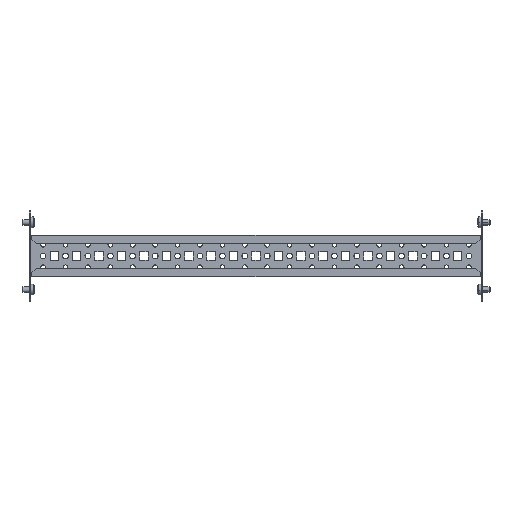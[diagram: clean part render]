
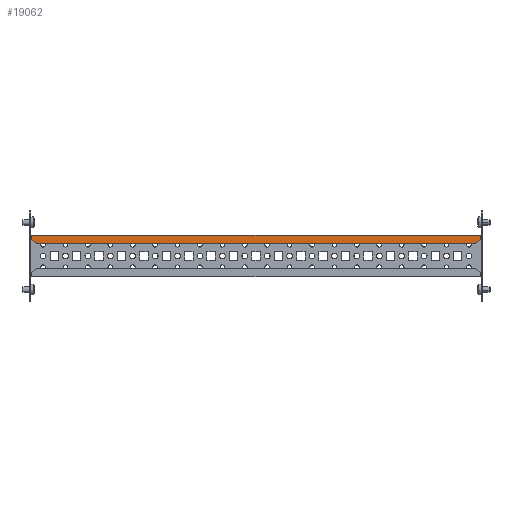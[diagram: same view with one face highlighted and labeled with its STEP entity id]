
A CAD part, front view. The second image highlights one B-rep face of the part: STEP entity #19062.
In plain terms, the highlighted planar face has unit normal (0, -1, 0).
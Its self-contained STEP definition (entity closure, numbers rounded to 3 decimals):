
#103 = VERTEX_POINT ( 'NONE', #16454 ) ;
#316 = VERTEX_POINT ( 'NONE', #8255 ) ;
#1080 = EDGE_LOOP ( 'NONE', ( #16733, #6594, #1815, #3065, #13098, #18577, #7416, #3872 ) ) ;
#1169 = CARTESIAN_POINT ( 'NONE',  ( 245., -94., 13.5 ) ) ;
#1287 = DIRECTION ( 'NONE',  ( 0.707, 0., -0.707 ) ) ;
#1815 = ORIENTED_EDGE ( 'NONE', *, *, #8837, .F. ) ;
#2374 = DIRECTION ( 'NONE',  ( -1., 0., 0. ) ) ;
#2702 = VERTEX_POINT ( 'NONE', #17596 ) ;
#3065 = ORIENTED_EDGE ( 'NONE', *, *, #14120, .T. ) ;
#3411 = CARTESIAN_POINT ( 'NONE',  ( -250., -94., 0. ) ) ;
#3506 = EDGE_CURVE ( 'NONE', #316, #15287, #14911, .T. ) ;
#3872 = ORIENTED_EDGE ( 'NONE', *, *, #12627, .F. ) ;
#4154 = DIRECTION ( 'NONE',  ( 0., 0., 1. ) ) ;
#4224 = VECTOR ( 'NONE', #2374, 1000. ) ;
#4449 = VECTOR ( 'NONE', #1287, 1000. ) ;
#4466 = VECTOR ( 'NONE', #17024, 1000. ) ;
#5253 = DIRECTION ( 'NONE',  ( -1., 0., 0. ) ) ;
#5730 = CARTESIAN_POINT ( 'NONE',  ( -250., -94., 23. ) ) ;
#6594 = ORIENTED_EDGE ( 'NONE', *, *, #20037, .T. ) ;
#6954 = CARTESIAN_POINT ( 'NONE',  ( 250., -94., 20. ) ) ;
#7416 = ORIENTED_EDGE ( 'NONE', *, *, #11611, .T. ) ;
#7644 = VERTEX_POINT ( 'NONE', #13340 ) ;
#8255 = CARTESIAN_POINT ( 'NONE',  ( -250., -94., 18.5 ) ) ;
#8428 = DIRECTION ( 'NONE',  ( 0., 0., -1. ) ) ;
#8837 = EDGE_CURVE ( 'NONE', #9676, #2702, #13199, .T. ) ;
#8933 = EDGE_CURVE ( 'NONE', #17730, #103, #13297, .T. ) ;
#9580 = CARTESIAN_POINT ( 'NONE',  ( -245., -94., 13.5 ) ) ;
#9614 = LINE ( 'NONE', #3411, #10272 ) ;
#9676 = VERTEX_POINT ( 'NONE', #1169 ) ;
#10272 = VECTOR ( 'NONE', #12906, 1000. ) ;
#10512 = CARTESIAN_POINT ( 'NONE',  ( 250., -94., 13.5 ) ) ;
#10803 = VECTOR ( 'NONE', #5253, 1000. ) ;
#11025 = CARTESIAN_POINT ( 'NONE',  ( 250., -94., 20. ) ) ;
#11580 = CARTESIAN_POINT ( 'NONE',  ( 0., -94., 23. ) ) ;
#11611 = EDGE_CURVE ( 'NONE', #7644, #12211, #13427, .T. ) ;
#12211 = VERTEX_POINT ( 'NONE', #5730 ) ;
#12301 = CARTESIAN_POINT ( 'NONE',  ( 250., -94., 18.5 ) ) ;
#12627 = EDGE_CURVE ( 'NONE', #15287, #12211, #9614, .T. ) ;
#12906 = DIRECTION ( 'NONE',  ( 0., 0., 1. ) ) ;
#13098 = ORIENTED_EDGE ( 'NONE', *, *, #8933, .F. ) ;
#13199 = LINE ( 'NONE', #14757, #10803 ) ;
#13297 = LINE ( 'NONE', #10512, #19367 ) ;
#13340 = CARTESIAN_POINT ( 'NONE',  ( 250., -94., 23. ) ) ;
#13427 = LINE ( 'NONE', #11580, #4224 ) ;
#13643 = DIRECTION ( 'NONE',  ( 0.707, 0., 0.707 ) ) ;
#13711 = AXIS2_PLACEMENT_3D ( 'NONE', #19169, #19273, #8428 ) ;
#14120 = EDGE_CURVE ( 'NONE', #9676, #103, #17169, .T. ) ;
#14606 = VECTOR ( 'NONE', #13643, 1000. ) ;
#14757 = CARTESIAN_POINT ( 'NONE',  ( -250., -94., 13.5 ) ) ;
#14911 = LINE ( 'NONE', #16565, #15933 ) ;
#15287 = VERTEX_POINT ( 'NONE', #15626 ) ;
#15626 = CARTESIAN_POINT ( 'NONE',  ( -250., -94., 20. ) ) ;
#15679 = LINE ( 'NONE', #11025, #4466 ) ;
#15933 = VECTOR ( 'NONE', #4154, 1000. ) ;
#16285 = PLANE ( 'NONE',  #13711 ) ;
#16454 = CARTESIAN_POINT ( 'NONE',  ( 250., -94., 18.5 ) ) ;
#16565 = CARTESIAN_POINT ( 'NONE',  ( -250., -94., 21. ) ) ;
#16733 = ORIENTED_EDGE ( 'NONE', *, *, #3506, .F. ) ;
#17024 = DIRECTION ( 'NONE',  ( 0., 0., 1. ) ) ;
#17169 = LINE ( 'NONE', #12301, #14606 ) ;
#17596 = CARTESIAN_POINT ( 'NONE',  ( -245., -94., 13.5 ) ) ;
#17730 = VERTEX_POINT ( 'NONE', #6954 ) ;
#18357 = DIRECTION ( 'NONE',  ( 0., 0., -1. ) ) ;
#18577 = ORIENTED_EDGE ( 'NONE', *, *, #20105, .T. ) ;
#19062 = ADVANCED_FACE ( 'NONE', ( #19473 ), #16285, .F. ) ;
#19169 = CARTESIAN_POINT ( 'NONE',  ( 0., -94., 0. ) ) ;
#19273 = DIRECTION ( 'NONE',  ( 0., 1., 0. ) ) ;
#19367 = VECTOR ( 'NONE', #18357, 1000. ) ;
#19473 = FACE_OUTER_BOUND ( 'NONE', #1080, .T. ) ;
#20037 = EDGE_CURVE ( 'NONE', #316, #2702, #20397, .T. ) ;
#20105 = EDGE_CURVE ( 'NONE', #17730, #7644, #15679, .T. ) ;
#20397 = LINE ( 'NONE', #9580, #4449 ) ;
